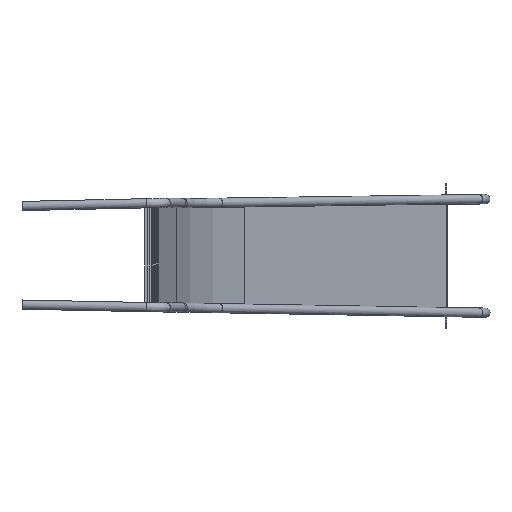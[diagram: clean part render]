
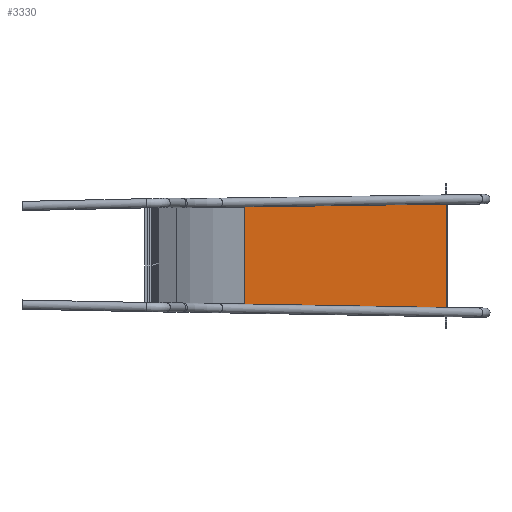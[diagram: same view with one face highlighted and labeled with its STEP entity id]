
A CAD part, top view. The second image highlights one B-rep face of the part: STEP entity #3330.
In plain terms, the highlighted planar face has unit normal (0.788, 0, 0.616) as drawn and (0, 0, -1) by its records, which use the part's own axes.
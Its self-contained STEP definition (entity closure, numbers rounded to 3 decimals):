
#219=FACE_OUTER_BOUND('',#428,.T.);
#428=EDGE_LOOP('',(#2276,#2277,#2278,#2279,#2280,#2281,#2282,#2283));
#765=LINE('',#5135,#1105);
#782=LINE('',#5175,#1122);
#787=LINE('',#5184,#1127);
#788=LINE('',#5187,#1128);
#789=LINE('',#5188,#1129);
#790=LINE('',#5190,#1130);
#791=LINE('',#5192,#1131);
#792=LINE('',#5193,#1132);
#1105=VECTOR('',#4094,10.);
#1122=VECTOR('',#4133,10.);
#1127=VECTOR('',#4142,10.);
#1128=VECTOR('',#4145,10.);
#1129=VECTOR('',#4146,10.);
#1130=VECTOR('',#4147,10.);
#1131=VECTOR('',#4148,10.);
#1132=VECTOR('',#4149,10.);
#1442=VERTEX_POINT('',#5110);
#1447=VERTEX_POINT('',#5122);
#1458=VERTEX_POINT('',#5151);
#1463=VERTEX_POINT('',#5168);
#1466=VERTEX_POINT('',#5182);
#1467=VERTEX_POINT('',#5186);
#1468=VERTEX_POINT('',#5189);
#1469=VERTEX_POINT('',#5191);
#1744=EDGE_CURVE('',#1447,#1442,#765,.T.);
#1765=EDGE_CURVE('',#1463,#1458,#782,.T.);
#1770=EDGE_CURVE('',#1458,#1466,#787,.T.);
#1771=EDGE_CURVE('',#1466,#1467,#788,.T.);
#1772=EDGE_CURVE('',#1467,#1447,#789,.T.);
#1773=EDGE_CURVE('',#1442,#1468,#790,.T.);
#1774=EDGE_CURVE('',#1468,#1469,#791,.T.);
#1775=EDGE_CURVE('',#1469,#1463,#792,.T.);
#2276=ORIENTED_EDGE('',*,*,#1765,.T.);
#2277=ORIENTED_EDGE('',*,*,#1770,.T.);
#2278=ORIENTED_EDGE('',*,*,#1771,.T.);
#2279=ORIENTED_EDGE('',*,*,#1772,.T.);
#2280=ORIENTED_EDGE('',*,*,#1744,.T.);
#2281=ORIENTED_EDGE('',*,*,#1773,.T.);
#2282=ORIENTED_EDGE('',*,*,#1774,.T.);
#2283=ORIENTED_EDGE('',*,*,#1775,.T.);
#3188=PLANE('',#3732);
#3330=ADVANCED_FACE('',(#219),#3188,.T.);
#3732=AXIS2_PLACEMENT_3D('',#5185,#4143,#4144);
#4094=DIRECTION('',(0.,1.,0.));
#4133=DIRECTION('',(0.,-1.,0.));
#4142=DIRECTION('',(-1.,0.,0.));
#4143=DIRECTION('center_axis',(0.,0.,-1.));
#4144=DIRECTION('ref_axis',(0.,1.,0.));
#4145=DIRECTION('',(0.,-1.,0.));
#4146=DIRECTION('',(-1.,0.,0.));
#4147=DIRECTION('',(1.,0.,0.));
#4148=DIRECTION('',(0.,-1.,0.));
#4149=DIRECTION('',(1.,0.,0.));
#5110=CARTESIAN_POINT('',(-1447.964,427.476,-542.524));
#5122=CARTESIAN_POINT('',(-1447.964,4.,-542.524));
#5135=CARTESIAN_POINT('',(-1447.964,-146.262,-542.524));
#5151=CARTESIAN_POINT('',(-97.342,5.765,-542.524));
#5168=CARTESIAN_POINT('',(-97.342,425.765,-542.524));
#5175=CARTESIAN_POINT('',(-97.342,320.765,-542.524));
#5182=CARTESIAN_POINT('',(-98.919,5.765,-542.524));
#5184=CARTESIAN_POINT('',(-97.009,5.765,-542.524));
#5185=CARTESIAN_POINT('Origin',(-206.675,215.765,-542.524));
#5186=CARTESIAN_POINT('',(-98.919,4.,-542.524));
#5187=CARTESIAN_POINT('',(-98.919,5.765,-542.524));
#5188=CARTESIAN_POINT('',(-315.82,4.,-542.524));
#5189=CARTESIAN_POINT('',(-98.919,427.476,-542.524));
#5190=CARTESIAN_POINT('',(-152.797,427.476,-542.524));
#5191=CARTESIAN_POINT('',(-98.919,425.765,-542.524));
#5192=CARTESIAN_POINT('',(-98.919,430.289,-542.524));
#5193=CARTESIAN_POINT('',(-98.919,425.765,-542.524));
